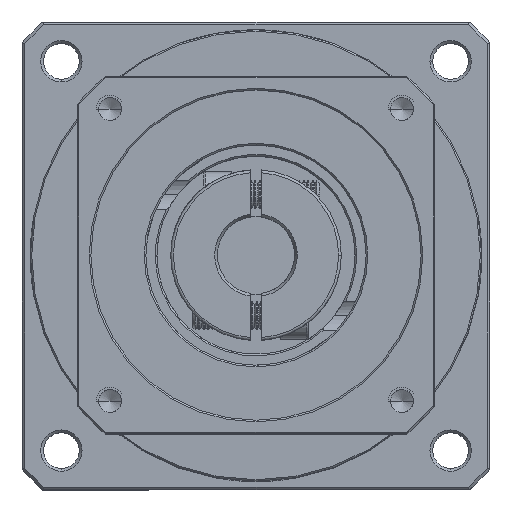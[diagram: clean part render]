
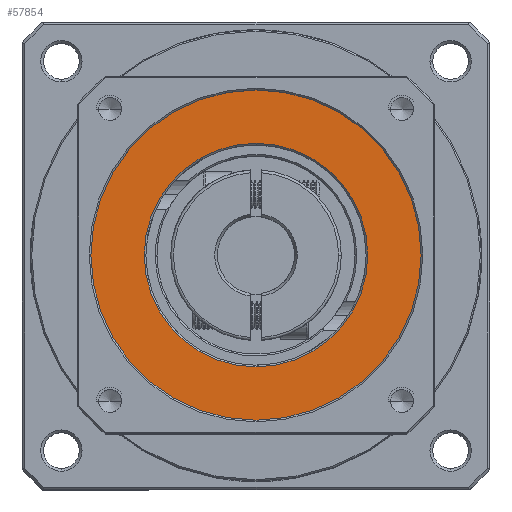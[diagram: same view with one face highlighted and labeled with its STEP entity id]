
A CAD part, top view. The second image highlights one B-rep face of the part: STEP entity #57854.
In plain terms, the highlighted planar face has unit normal (0, 0, 1).
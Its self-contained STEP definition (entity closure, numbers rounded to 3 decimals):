
#5158 = VERTEX_POINT ( 'NONE', #83119 ) ;
#6671 = CARTESIAN_POINT ( 'NONE',  ( -93.221, 21.659, 10.244 ) ) ;
#8237 = CARTESIAN_POINT ( 'NONE',  ( -63.221, 21.659, 10.244 ) ) ;
#10230 = AXIS2_PLACEMENT_3D ( 'NONE', #38580, #103310, #47921 ) ;
#17456 = DIRECTION ( 'NONE',  ( 1., 0., 0. ) ) ;
#21079 = CIRCLE ( 'NONE', #29583, 30. ) ;
#23257 = FACE_OUTER_BOUND ( 'NONE', #70382, .T. ) ;
#24801 = EDGE_CURVE ( 'NONE', #39704, #5158, #78034, .T. ) ;
#26072 = VERTEX_POINT ( 'NONE', #27906 ) ;
#26671 = EDGE_CURVE ( 'NONE', #26072, #45685, #69168, .T. ) ;
#27906 = CARTESIAN_POINT ( 'NONE',  ( -83.521, 21.659, 10.244 ) ) ;
#29583 = AXIS2_PLACEMENT_3D ( 'NONE', #8237, #72838, #17456 ) ;
#29699 = CARTESIAN_POINT ( 'NONE',  ( -63.221, 21.659, 10.244 ) ) ;
#30045 = CARTESIAN_POINT ( 'NONE',  ( -63.221, 21.659, 10.244 ) ) ;
#35865 = ORIENTED_EDGE ( 'NONE', *, *, #50255, .T. ) ;
#37024 = PLANE ( 'NONE',  #86736 ) ;
#38580 = CARTESIAN_POINT ( 'NONE',  ( -63.221, 21.659, 10.244 ) ) ;
#38988 = DIRECTION ( 'NONE',  ( 1., 0., 0. ) ) ;
#39325 = DIRECTION ( 'NONE',  ( 1., 0., 0. ) ) ;
#39704 = VERTEX_POINT ( 'NONE', #6671 ) ;
#40423 = ORIENTED_EDGE ( 'NONE', *, *, #64223, .T. ) ;
#45685 = VERTEX_POINT ( 'NONE', #101964 ) ;
#47921 = DIRECTION ( 'NONE',  ( 1., 0., 0. ) ) ;
#50255 = EDGE_CURVE ( 'NONE', #45685, #26072, #78131, .T. ) ;
#50850 = DIRECTION ( 'NONE',  ( 0., 0., 1. ) ) ;
#57854 = ADVANCED_FACE ( 'NONE', ( #72541, #23257 ), #37024, .T. ) ;
#64223 = EDGE_CURVE ( 'NONE', #5158, #39704, #21079, .T. ) ;
#69168 = CIRCLE ( 'NONE', #10230, 20.3 ) ;
#70382 = EDGE_LOOP ( 'NONE', ( #40423, #97003 ) ) ;
#72541 = FACE_BOUND ( 'NONE', #79355, .T. ) ;
#72838 = DIRECTION ( 'NONE',  ( 0., 0., 1. ) ) ;
#74952 = AXIS2_PLACEMENT_3D ( 'NONE', #30045, #94802, #39325 ) ;
#78034 = CIRCLE ( 'NONE', #98156, 30. ) ;
#78131 = CIRCLE ( 'NONE', #74952, 20.3 ) ;
#79355 = EDGE_LOOP ( 'NONE', ( #35865, #114079 ) ) ;
#83119 = CARTESIAN_POINT ( 'NONE',  ( -33.221, 21.659, 10.244 ) ) ;
#86736 = AXIS2_PLACEMENT_3D ( 'NONE', #29699, #94483, #38988 ) ;
#94483 = DIRECTION ( 'NONE',  ( 0., 0., 1. ) ) ;
#94802 = DIRECTION ( 'NONE',  ( 0., 0., -1. ) ) ;
#97003 = ORIENTED_EDGE ( 'NONE', *, *, #24801, .T. ) ;
#98156 = AXIS2_PLACEMENT_3D ( 'NONE', #106219, #50850, #115491 ) ;
#101964 = CARTESIAN_POINT ( 'NONE',  ( -42.921, 21.659, 10.244 ) ) ;
#103310 = DIRECTION ( 'NONE',  ( 0., 0., -1. ) ) ;
#106219 = CARTESIAN_POINT ( 'NONE',  ( -63.221, 21.659, 10.244 ) ) ;
#114079 = ORIENTED_EDGE ( 'NONE', *, *, #26671, .T. ) ;
#115491 = DIRECTION ( 'NONE',  ( 1., 0., 0. ) ) ;
